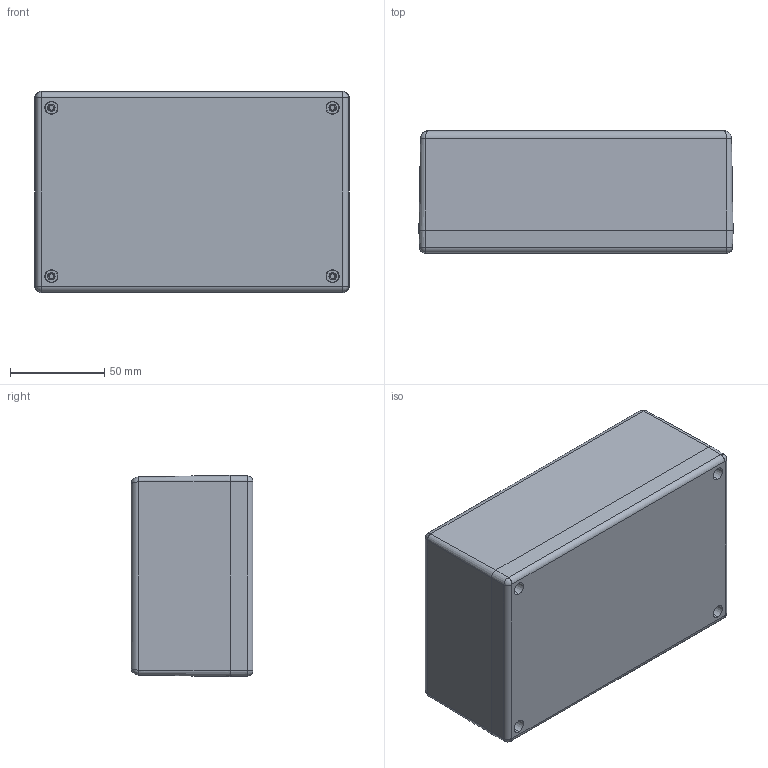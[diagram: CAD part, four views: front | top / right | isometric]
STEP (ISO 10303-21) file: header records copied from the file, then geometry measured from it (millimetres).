
FILE_DESCRIPTION (( 'STEP AP203' ), '1' );
FILE_NAME ('PR-230.STEP', '2025-03-20T14:19:11', ( '' ), ( '' ), 'SwSTEP 2.0', 'SolidWorks 2021', '' );
FILE_SCHEMA (( 'CONFIG_CONTROL_DESIGN' ));
Length unit declared in the file: millimetre
Products named in the file (3): cover; PR-230; body
Assembly tree (2 placements, depth 2):
  PR-230
    cover
    body
Bounding box: 167 x 64.8 x 107 mm (x, y, z)
Volume: 233547.3 mm3; surface area: 144995.9 mm2
Topology: 2 solids, 2 shells, 193 faces, 470 edges, 304 vertices
Faces by surface type: plane 87, cone 50, cylinder 48, torus 4, bspline 4
Entity records: 9167 total; most frequent: CARTESIAN_POINT 4238, DIRECTION 1006, ORIENTED_EDGE 932, EDGE_CURVE 466, AXIS2_PLACEMENT_3D 390, VERTEX_POINT 304, EDGE_LOOP 228, VECTOR 226
